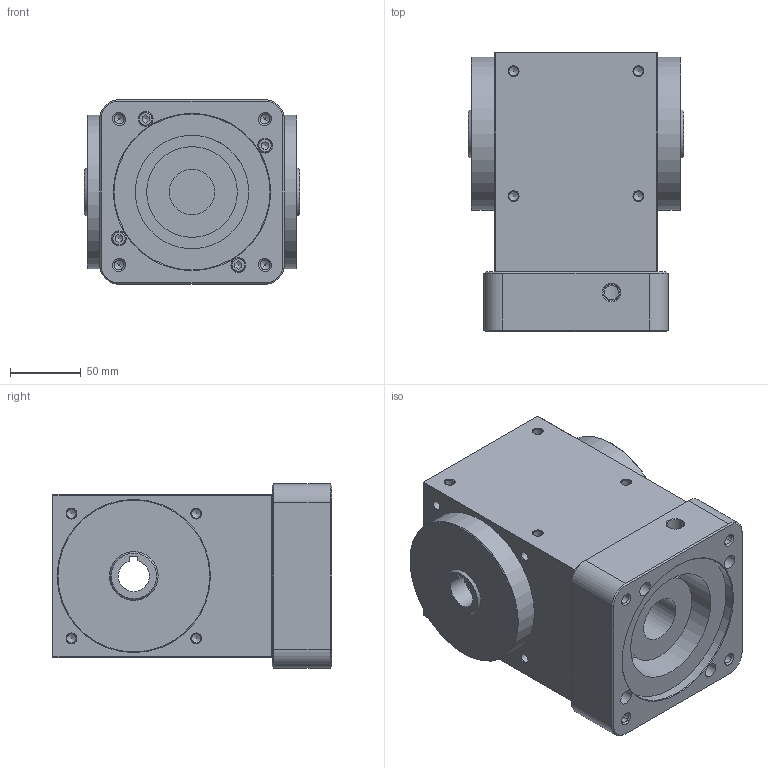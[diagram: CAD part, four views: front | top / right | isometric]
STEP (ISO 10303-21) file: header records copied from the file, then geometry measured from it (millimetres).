
FILE_DESCRIPTION((''),'2;1');
FILE_NAME('D:\유성\SBT 베벨기어박스\최종도면모음\3D\SBT115\SBT115MHS001H.stp','2014-05-20T15:52:05',('nagyu'),(''),'Autodesk Inventor 2013','Autodesk Inventor 2013','');
FILE_SCHEMA(('AUTOMOTIVE_DESIGN { 1 0 10303 214 1 1 1 1 }'));
Length unit declared in the file: millimetre
Products named in the file (1): SBT115MHS001H_Shrinkwrap_1
Bounding box: 152 x 197 x 130 mm (x, y, z)
Volume: 2765417.7 mm3; surface area: 191883 mm2
Topology: 1 solids, 6 shells, 271 faces, 687 edges, 419 vertices
Faces by surface type: plane 96, cylinder 88, cone 79, torus 8
Full cylindrical faces by diameter (mm): 6 x4, 6.6 x4, 6.647 x40, 8 x2, 10 x4, 10.2 x1, 10.5 x4, 12 x1, 32 x1, 47.7 x1, 64 x1, 80 x1, 100 x2, 108 x2, 110 x1
Entity records: 7003 total; most frequent: CARTESIAN_POINT 1355, DIRECTION 1230, ORIENTED_EDGE 938, AXIS2_PLACEMENT_3D 526, EDGE_CURVE 469, EDGE_LOOP 440, VERTEX_POINT 341, FACE_OUTER_BOUND 271
